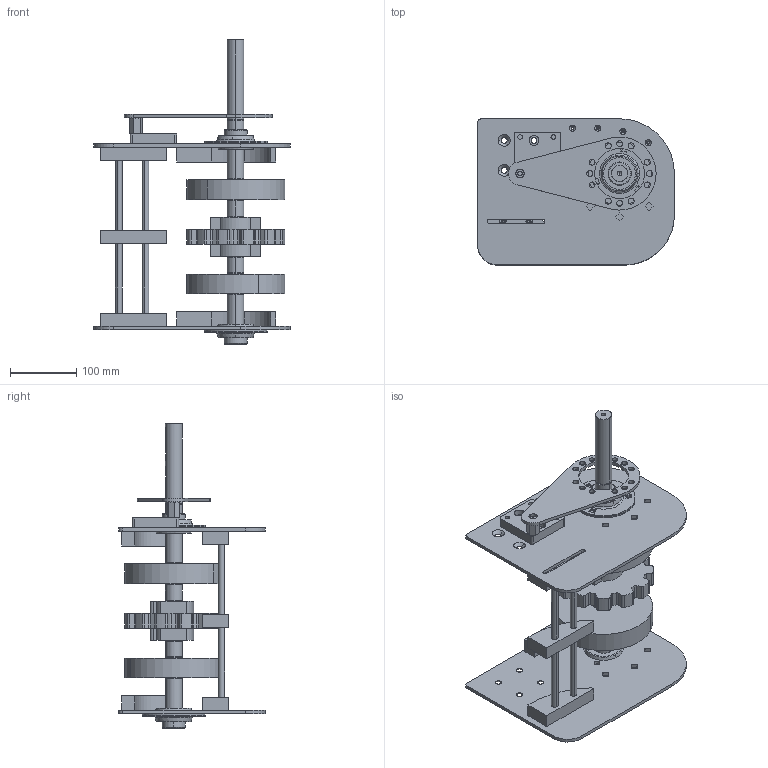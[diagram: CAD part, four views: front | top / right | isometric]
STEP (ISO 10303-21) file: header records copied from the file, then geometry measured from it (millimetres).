
FILE_DESCRIPTION (( 'STEP AP203' ), '1' );
FILE_NAME ('2000.1000.163.STEP', '2015-04-02T08:55:51', ( '' ), ( '' ), 'SwSTEP 2.0', 'SolidWorks 2012', '' );
FILE_SCHEMA (( 'CONFIG_CONTROL_DESIGN' ));
Length unit declared in the file: millimetre
Products named in the file (13): 2000.1000.163; RUOTE DI TRAINO NS882_NS882T12R25; SBPF 205; 2000.001.017; 2000.001.016; 2000.1000.104; 2000.001.102-1; 084.808.005-1; 2000.1000.102-1; 084.802.027; 2000.001.015-1; 2000.001.014-1; 2000.001.013
Assembly tree (18 placements, depth 2):
  2000.1000.163
    2000.001.013
    2000.001.014-1  x2
    2000.001.015-1  x3
    084.802.027
    2000.1000.102-1
    084.808.005-1
    2000.001.102-1
    2000.1000.104  x2
    2000.001.016  x2
    2000.001.017
    SBPF 205  x2
    RUOTE DI TRAINO NS882_NS882T12R25
Bounding box: 296.5 x 220 x 459 mm (x, y, z)
Volume: 2840438.2 mm3; surface area: 647990.3 mm2
Topology: 22 solids, 22 shells, 716 faces, 1865 edges, 1200 vertices
Faces by surface type: cylinder 340, plane 246, cone 70, torus 40, sphere 20
Entity records: 20437 total; most frequent: CARTESIAN_POINT 3467, DIRECTION 3464, ORIENTED_EDGE 3070, EDGE_CURVE 1535, AXIS2_PLACEMENT_3D 1351, VERTEX_POINT 994, LINE 762, VECTOR 762
